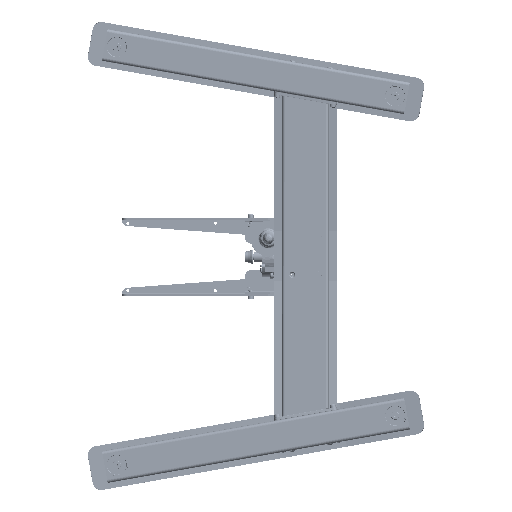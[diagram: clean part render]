
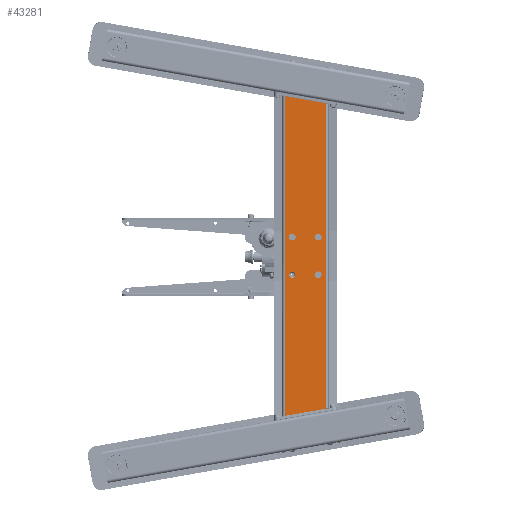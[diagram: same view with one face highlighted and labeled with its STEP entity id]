
A CAD part, top view. The second image highlights one B-rep face of the part: STEP entity #43281.
In plain terms, the highlighted planar face has unit normal (0, 0, 1) as drawn and (0, 0, -1) by its records, which use the part's own axes.
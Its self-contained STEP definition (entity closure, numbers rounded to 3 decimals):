
#1708 = LINE ( 'NONE', #68794, #10577 ) ;
#4206 = CARTESIAN_POINT ( 'NONE',  ( 0., 0., -1. ) ) ;
#5492 = CARTESIAN_POINT ( 'NONE',  ( 37.25, 22., -1. ) ) ;
#8776 = DIRECTION ( 'NONE',  ( 1., 0., 0. ) ) ;
#9731 = EDGE_CURVE ( 'NONE', #21199, #21199, #60798, .T. ) ;
#10577 = VECTOR ( 'NONE', #202936, 1000. ) ;
#11463 = DIRECTION ( 'NONE',  ( 1., 0., 0. ) ) ;
#12654 = EDGE_CURVE ( 'NONE', #207401, #183095, #16616, .T. ) ;
#12970 = CARTESIAN_POINT ( 'NONE',  ( 271.093, -34.5, -1. ) ) ;
#14434 = CARTESIAN_POINT ( 'NONE',  ( -26.75, 22., -1. ) ) ;
#15211 = CARTESIAN_POINT ( 'NONE',  ( 258.927, 34.5, -1. ) ) ;
#16616 = LINE ( 'NONE', #101281, #207273 ) ;
#21199 = VERTEX_POINT ( 'NONE', #138862 ) ;
#22251 = DIRECTION ( 'NONE',  ( 0., 0., 1. ) ) ;
#22903 = FACE_OUTER_BOUND ( 'NONE', #70943, .T. ) ;
#27984 = DIRECTION ( 'NONE',  ( 0., 0., 1. ) ) ;
#30198 = CARTESIAN_POINT ( 'NONE',  ( 37.25, -22., -1. ) ) ;
#41553 = FACE_BOUND ( 'NONE', #156481, .T. ) ;
#42865 = LINE ( 'NONE', #108849, #156191 ) ;
#43281 = ADVANCED_FACE ( 'NONE', ( #58048, #41553, #125138, #171340, #22903 ), #108628, .F. ) ;
#46671 = CARTESIAN_POINT ( 'NONE',  ( -271.093, -34.5, -1. ) ) ;
#46764 = DIRECTION ( 'NONE',  ( 0.174, -0.985, 0. ) ) ;
#47075 = DIRECTION ( 'NONE',  ( 0., 0., 1. ) ) ;
#47310 = ORIENTED_EDGE ( 'NONE', *, *, #100946, .T. ) ;
#49362 = CARTESIAN_POINT ( 'NONE',  ( 0., 34.5, -1. ) ) ;
#52321 = EDGE_CURVE ( 'NONE', #58390, #161939, #145750, .T. ) ;
#54320 = AXIS2_PLACEMENT_3D ( 'NONE', #147770, #27984, #11463 ) ;
#55469 = EDGE_CURVE ( 'NONE', #98001, #98001, #110494, .T. ) ;
#58048 = FACE_BOUND ( 'NONE', #72884, .T. ) ;
#58390 = VERTEX_POINT ( 'NONE', #15211 ) ;
#60798 = CIRCLE ( 'NONE', #183660, 5.25 ) ;
#66371 = ORIENTED_EDGE ( 'NONE', *, *, #191637, .T. ) ;
#68282 = DIRECTION ( 'NONE',  ( 0.174, 0.985, 0. ) ) ;
#68794 = CARTESIAN_POINT ( 'NONE',  ( 0., 34.5, -1. ) ) ;
#69128 = LINE ( 'NONE', #49362, #181200 ) ;
#70943 = EDGE_LOOP ( 'NONE', ( #195599, #194032, #89819, #164349, #176740, #73772 ) ) ;
#72884 = EDGE_LOOP ( 'NONE', ( #116402 ) ) ;
#73772 = ORIENTED_EDGE ( 'NONE', *, *, #155876, .F. ) ;
#78258 = CARTESIAN_POINT ( 'NONE',  ( 0., 34.5, -1. ) ) ;
#82734 = AXIS2_PLACEMENT_3D ( 'NONE', #105827, #22251, #89317 ) ;
#82954 = EDGE_CURVE ( 'NONE', #163364, #199194, #110162, .T. ) ;
#89317 = DIRECTION ( 'NONE',  ( 1., 0., 0. ) ) ;
#89819 = ORIENTED_EDGE ( 'NONE', *, *, #12654, .T. ) ;
#92126 = DIRECTION ( 'NONE',  ( 1., 0., 0. ) ) ;
#95987 = CARTESIAN_POINT ( 'NONE',  ( -257.928, 34.5, -1. ) ) ;
#97655 = DIRECTION ( 'NONE',  ( 1., 0., 0. ) ) ;
#98001 = VERTEX_POINT ( 'NONE', #14434 ) ;
#100946 = EDGE_CURVE ( 'NONE', #208898, #208898, #197988, .T. ) ;
#101281 = CARTESIAN_POINT ( 'NONE',  ( -257.019, 45.319, -1. ) ) ;
#105827 = CARTESIAN_POINT ( 'NONE',  ( 32., -22., -1. ) ) ;
#107742 = ORIENTED_EDGE ( 'NONE', *, *, #9731, .T. ) ;
#108628 = PLANE ( 'NONE',  #178774 ) ;
#108849 = CARTESIAN_POINT ( 'NONE',  ( 0., -34.5, -1. ) ) ;
#110162 = LINE ( 'NONE', #78258, #201202 ) ;
#110494 = CIRCLE ( 'NONE', #54320, 5.25 ) ;
#115263 = CARTESIAN_POINT ( 'NONE',  ( 32., 22., -1. ) ) ;
#116402 = ORIENTED_EDGE ( 'NONE', *, *, #55469, .T. ) ;
#125138 = FACE_BOUND ( 'NONE', #127322, .T. ) ;
#127322 = EDGE_LOOP ( 'NONE', ( #66371 ) ) ;
#130346 = CARTESIAN_POINT ( 'NONE',  ( 257.019, 45.319, -1. ) ) ;
#134572 = VERTEX_POINT ( 'NONE', #30198 ) ;
#138862 = CARTESIAN_POINT ( 'NONE',  ( -26.75, -22., -1. ) ) ;
#140419 = CARTESIAN_POINT ( 'NONE',  ( -32., -22., -1. ) ) ;
#140543 = DIRECTION ( 'NONE',  ( 0., 0., 1. ) ) ;
#142493 = EDGE_CURVE ( 'NONE', #199194, #183095, #69128, .T. ) ;
#145319 = DIRECTION ( 'NONE',  ( -1., 0., 0. ) ) ;
#145750 = LINE ( 'NONE', #130346, #183610 ) ;
#147770 = CARTESIAN_POINT ( 'NONE',  ( -32., 22., -1. ) ) ;
#149423 = DIRECTION ( 'NONE',  ( -1., 0., 0. ) ) ;
#155876 = EDGE_CURVE ( 'NONE', #58390, #163364, #1708, .T. ) ;
#156191 = VECTOR ( 'NONE', #8776, 1000. ) ;
#156481 = EDGE_LOOP ( 'NONE', ( #47310 ) ) ;
#161939 = VERTEX_POINT ( 'NONE', #12970 ) ;
#163364 = VERTEX_POINT ( 'NONE', #190712 ) ;
#164349 = ORIENTED_EDGE ( 'NONE', *, *, #142493, .F. ) ;
#171225 = DIRECTION ( 'NONE',  ( 1., 0., 0. ) ) ;
#171340 = FACE_BOUND ( 'NONE', #216010, .T. ) ;
#174259 = EDGE_CURVE ( 'NONE', #207401, #161939, #42865, .T. ) ;
#176740 = ORIENTED_EDGE ( 'NONE', *, *, #82954, .F. ) ;
#178774 = AXIS2_PLACEMENT_3D ( 'NONE', #4206, #140543, #92126 ) ;
#180950 = CIRCLE ( 'NONE', #82734, 5.25 ) ;
#181200 = VECTOR ( 'NONE', #149423, 1000. ) ;
#183095 = VERTEX_POINT ( 'NONE', #207229 ) ;
#183610 = VECTOR ( 'NONE', #46764, 1000. ) ;
#183660 = AXIS2_PLACEMENT_3D ( 'NONE', #140419, #205321, #171225 ) ;
#187478 = AXIS2_PLACEMENT_3D ( 'NONE', #115263, #47075, #97655 ) ;
#190712 = CARTESIAN_POINT ( 'NONE',  ( 257.928, 34.5, -1. ) ) ;
#191637 = EDGE_CURVE ( 'NONE', #134572, #134572, #180950, .T. ) ;
#194032 = ORIENTED_EDGE ( 'NONE', *, *, #174259, .F. ) ;
#195599 = ORIENTED_EDGE ( 'NONE', *, *, #52321, .T. ) ;
#197988 = CIRCLE ( 'NONE', #187478, 5.25 ) ;
#199194 = VERTEX_POINT ( 'NONE', #95987 ) ;
#201202 = VECTOR ( 'NONE', #145319, 1000. ) ;
#202936 = DIRECTION ( 'NONE',  ( -1., 0., 0. ) ) ;
#205321 = DIRECTION ( 'NONE',  ( 0., 0., 1. ) ) ;
#207229 = CARTESIAN_POINT ( 'NONE',  ( -258.927, 34.5, -1. ) ) ;
#207273 = VECTOR ( 'NONE', #68282, 1000. ) ;
#207401 = VERTEX_POINT ( 'NONE', #46671 ) ;
#208898 = VERTEX_POINT ( 'NONE', #5492 ) ;
#216010 = EDGE_LOOP ( 'NONE', ( #107742 ) ) ;
